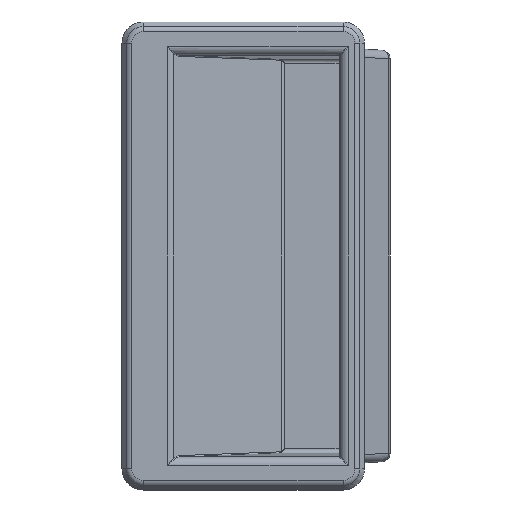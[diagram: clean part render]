
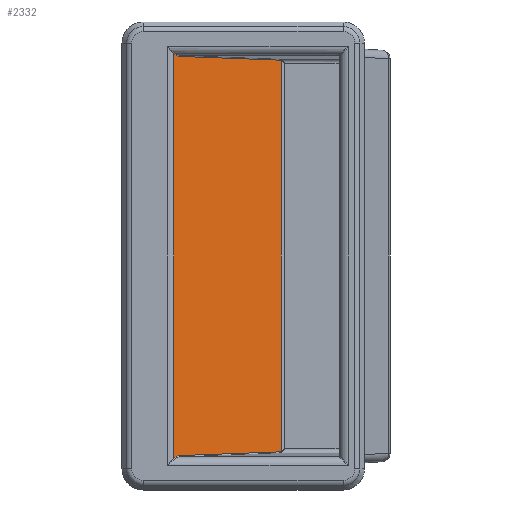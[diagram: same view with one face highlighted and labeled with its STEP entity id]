
A CAD part, front view. The second image highlights one B-rep face of the part: STEP entity #2332.
In plain terms, the highlighted planar face has unit normal (0.707, -0.707, 0).
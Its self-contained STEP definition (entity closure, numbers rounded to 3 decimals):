
#592 =( BOUNDED_CURVE ( )  B_SPLINE_CURVE ( 3, ( #5369, #16059, #19615, #8945 ),
 .UNSPECIFIED., .F., .F. ) 
 B_SPLINE_CURVE_WITH_KNOTS ( ( 4, 4 ),
 ( 1.608, 2.244 ),
 .UNSPECIFIED. ) 
 CURVE ( )  GEOMETRIC_REPRESENTATION_ITEM ( )  RATIONAL_B_SPLINE_CURVE ( ( 1., 0.967, 0.967, 1. ) ) 
 REPRESENTATION_ITEM ( '' )  );
#789 = LINE ( 'NONE', #15571, #18608 ) ;
#1080 = CARTESIAN_POINT ( 'NONE',  ( -24.453, -26.999, 47.158 ) ) ;
#1260 = VERTEX_POINT ( 'NONE', #17473 ) ;
#1269 = LINE ( 'NONE', #8764, #4871 ) ;
#1592 = CARTESIAN_POINT ( 'NONE',  ( -24.453, -26.999, -47.158 ) ) ;
#1611 = ORIENTED_EDGE ( 'NONE', *, *, #22388, .T. ) ;
#2332 = ADVANCED_FACE ( 'NONE', ( #2524 ), #3395, .T. ) ;
#2524 = FACE_OUTER_BOUND ( 'NONE', #21004, .T. ) ;
#2863 = CARTESIAN_POINT ( 'NONE',  ( -24.869, -27.414, 47.574 ) ) ;
#2997 = VERTEX_POINT ( 'NONE', #21262 ) ;
#3035 = VERTEX_POINT ( 'NONE', #21734 ) ;
#3395 = PLANE ( 'NONE',  #13673 ) ;
#3437 = DIRECTION ( 'NONE',  ( 0.707, 0.707, -0.026 ) ) ;
#3687 = CARTESIAN_POINT ( 'NONE',  ( -23.915, -26.46, -46.923 ) ) ;
#4351 = EDGE_CURVE ( 'NONE', #1260, #4983, #14143, .T. ) ;
#4464 = CARTESIAN_POINT ( 'NONE',  ( 0.394, -2.151, 45.886 ) ) ;
#4871 = VECTOR ( 'NONE', #3437, 1000. ) ;
#4983 = VERTEX_POINT ( 'NONE', #4464 ) ;
#4992 =( BOUNDED_CURVE ( )  B_SPLINE_CURVE ( 3, ( #7225, #1592, #3687, #9015 ),
 .UNSPECIFIED., .F., .F. ) 
 B_SPLINE_CURVE_WITH_KNOTS ( ( 4, 4 ),
 ( 0.785, 1.534 ),
 .UNSPECIFIED. ) 
 CURVE ( )  GEOMETRIC_REPRESENTATION_ITEM ( )  RATIONAL_B_SPLINE_CURVE ( ( 1., 0.954, 0.954, 1. ) ) 
 REPRESENTATION_ITEM ( '' )  );
#5100 = EDGE_CURVE ( 'NONE', #19043, #7741, #4992, .T. ) ;
#5146 = CARTESIAN_POINT ( 'NONE',  ( 2.153, -0.393, -45.958 ) ) ;
#5369 = CARTESIAN_POINT ( 'NONE',  ( -0.016, -2.562, -46.038 ) ) ;
#5825 = EDGE_CURVE ( 'NONE', #3035, #2997, #592, .T. ) ;
#6678 = DIRECTION ( 'NONE',  ( 0.707, -0.707, 0. ) ) ;
#6830 = ORIENTED_EDGE ( 'NONE', *, *, #17817, .F. ) ;
#7225 = CARTESIAN_POINT ( 'NONE',  ( -24.869, -27.414, -47.574 ) ) ;
#7621 = VECTOR ( 'NONE', #14026, 1000. ) ;
#7741 = VERTEX_POINT ( 'NONE', #15936 ) ;
#8764 = CARTESIAN_POINT ( 'NONE',  ( 2.153, -0.393, 45.958 ) ) ;
#8945 = CARTESIAN_POINT ( 'NONE',  ( 0.394, -2.151, -45.886 ) ) ;
#9015 = CARTESIAN_POINT ( 'NONE',  ( -23.327, -25.873, -46.902 ) ) ;
#9093 = ORIENTED_EDGE ( 'NONE', *, *, #5825, .T. ) ;
#9373 = CARTESIAN_POINT ( 'NONE',  ( 0.276, -2.27, 45.98 ) ) ;
#9629 = ORIENTED_EDGE ( 'NONE', *, *, #4351, .F. ) ;
#9824 = CARTESIAN_POINT ( 'NONE',  ( -23.915, -26.46, 46.923 ) ) ;
#11615 = ORIENTED_EDGE ( 'NONE', *, *, #12061, .T. ) ;
#11861 = ORIENTED_EDGE ( 'NONE', *, *, #5100, .T. ) ;
#12061 = EDGE_CURVE ( 'NONE', #22146, #19043, #15107, .T. ) ;
#12274 = EDGE_CURVE ( 'NONE', #22146, #21637, #20079, .T. ) ;
#12885 = CARTESIAN_POINT ( 'NONE',  ( 0.135, -2.411, 46.033 ) ) ;
#13673 = AXIS2_PLACEMENT_3D ( 'NONE', #18193, #6678, #19146 ) ;
#13980 = VECTOR ( 'NONE', #16287, 1000. ) ;
#14026 = DIRECTION ( 'NONE',  ( 0.707, 0.707, 0.026 ) ) ;
#14143 =( BOUNDED_CURVE ( )  B_SPLINE_CURVE ( 3, ( #16494, #12885, #9373, #21816 ),
 .UNSPECIFIED., .F., .F. ) 
 B_SPLINE_CURVE_WITH_KNOTS ( ( 4, 4 ),
 ( 1.608, 2.244 ),
 .UNSPECIFIED. ) 
 CURVE ( )  GEOMETRIC_REPRESENTATION_ITEM ( )  RATIONAL_B_SPLINE_CURVE ( ( 1., 0.967, 0.967, 1. ) ) 
 REPRESENTATION_ITEM ( '' )  );
#14492 = CARTESIAN_POINT ( 'NONE',  ( -24.869, -27.414, 49. ) ) ;
#15107 = LINE ( 'NONE', #14492, #13980 ) ;
#15319 = CARTESIAN_POINT ( 'NONE',  ( -23.327, -25.873, 46.902 ) ) ;
#15571 = CARTESIAN_POINT ( 'NONE',  ( 0.394, -2.151, 49. ) ) ;
#15936 = CARTESIAN_POINT ( 'NONE',  ( -23.327, -25.873, -46.902 ) ) ;
#16059 = CARTESIAN_POINT ( 'NONE',  ( 0.135, -2.411, -46.033 ) ) ;
#16287 = DIRECTION ( 'NONE',  ( 0., 0., -1. ) ) ;
#16363 = ORIENTED_EDGE ( 'NONE', *, *, #20450, .F. ) ;
#16494 = CARTESIAN_POINT ( 'NONE',  ( -0.016, -2.562, 46.038 ) ) ;
#17354 = DIRECTION ( 'NONE',  ( 0., 0., -1. ) ) ;
#17473 = CARTESIAN_POINT ( 'NONE',  ( -0.016, -2.562, 46.038 ) ) ;
#17817 = EDGE_CURVE ( 'NONE', #4983, #2997, #789, .T. ) ;
#18193 = CARTESIAN_POINT ( 'NONE',  ( 0.394, -2.151, 49. ) ) ;
#18608 = VECTOR ( 'NONE', #17354, 1000. ) ;
#19043 = VERTEX_POINT ( 'NONE', #20834 ) ;
#19146 = DIRECTION ( 'NONE',  ( 0.707, 0.707, 0. ) ) ;
#19615 = CARTESIAN_POINT ( 'NONE',  ( 0.276, -2.27, -45.98 ) ) ;
#20079 =( BOUNDED_CURVE ( )  B_SPLINE_CURVE ( 3, ( #2863, #1080, #9824, #15319 ),
 .UNSPECIFIED., .F., .F. ) 
 B_SPLINE_CURVE_WITH_KNOTS ( ( 4, 4 ),
 ( 0.785, 1.534 ),
 .UNSPECIFIED. ) 
 CURVE ( )  GEOMETRIC_REPRESENTATION_ITEM ( )  RATIONAL_B_SPLINE_CURVE ( ( 1., 0.954, 0.954, 1. ) ) 
 REPRESENTATION_ITEM ( '' )  );
#20193 = CARTESIAN_POINT ( 'NONE',  ( -23.327, -25.873, 46.902 ) ) ;
#20450 = EDGE_CURVE ( 'NONE', #21637, #1260, #1269, .T. ) ;
#20834 = CARTESIAN_POINT ( 'NONE',  ( -24.869, -27.414, -47.574 ) ) ;
#21004 = EDGE_LOOP ( 'NONE', ( #6830, #9629, #16363, #22441, #11615, #11861, #1611, #9093 ) ) ;
#21262 = CARTESIAN_POINT ( 'NONE',  ( 0.394, -2.151, -45.886 ) ) ;
#21637 = VERTEX_POINT ( 'NONE', #20193 ) ;
#21734 = CARTESIAN_POINT ( 'NONE',  ( -0.016, -2.562, -46.038 ) ) ;
#21816 = CARTESIAN_POINT ( 'NONE',  ( 0.394, -2.151, 45.886 ) ) ;
#21830 = LINE ( 'NONE', #5146, #7621 ) ;
#22146 = VERTEX_POINT ( 'NONE', #22181 ) ;
#22181 = CARTESIAN_POINT ( 'NONE',  ( -24.869, -27.414, 47.574 ) ) ;
#22388 = EDGE_CURVE ( 'NONE', #7741, #3035, #21830, .T. ) ;
#22441 = ORIENTED_EDGE ( 'NONE', *, *, #12274, .F. ) ;
